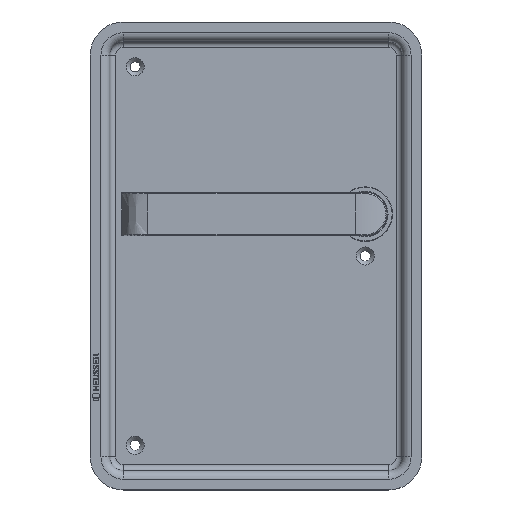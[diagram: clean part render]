
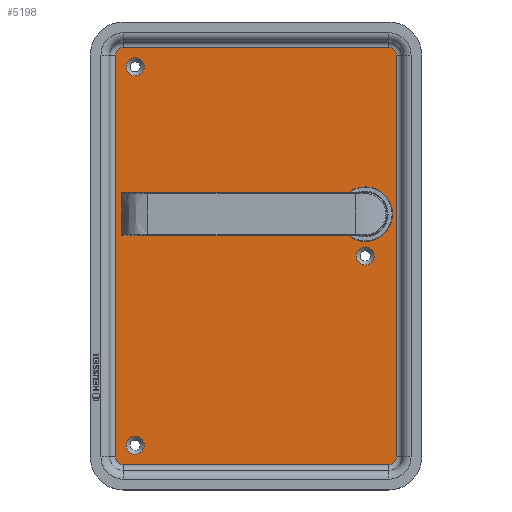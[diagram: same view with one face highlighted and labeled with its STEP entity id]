
A CAD part, top view. The second image highlights one B-rep face of the part: STEP entity #5198.
In plain terms, the highlighted planar face has unit normal (0, 0, 1).
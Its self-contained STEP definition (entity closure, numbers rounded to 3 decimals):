
#289=LINE('',#7328,#683);
#291=LINE('',#7346,#685);
#292=LINE('',#7349,#686);
#294=LINE('',#7366,#688);
#683=VECTOR('',#6058,10.);
#685=VECTOR('',#6080,10.);
#686=VECTOR('',#6083,10.);
#688=VECTOR('',#6105,10.);
#1150=FACE_BOUND('',#1618,.T.);
#1151=FACE_BOUND('',#1619,.T.);
#1152=FACE_BOUND('',#1620,.T.);
#1153=FACE_BOUND('',#1621,.T.);
#1287=FACE_OUTER_BOUND('',#1617,.T.);
#1617=EDGE_LOOP('',(#3617,#3618,#3619,#3620,#3621,#3622,#3623,#3624));
#1618=EDGE_LOOP('',(#3625));
#1619=EDGE_LOOP('',(#3626));
#1620=EDGE_LOOP('',(#3627));
#1621=EDGE_LOOP('',(#3628));
#1935=CIRCLE('',#5511,4.);
#1936=CIRCLE('',#5513,4.);
#1943=CIRCLE('',#5523,4.);
#1944=CIRCLE('',#5525,4.);
#1993=CIRCLE('',#5625,4.65);
#1994=CIRCLE('',#5627,4.65);
#1995=CIRCLE('',#5629,14.);
#1996=CIRCLE('',#5630,4.65);
#2113=VERTEX_POINT('',#7322);
#2115=VERTEX_POINT('',#7326);
#2117=VERTEX_POINT('',#7332);
#2118=VERTEX_POINT('',#7336);
#2121=VERTEX_POINT('',#7344);
#2122=VERTEX_POINT('',#7348);
#2125=VERTEX_POINT('',#7356);
#2126=VERTEX_POINT('',#7360);
#2187=VERTEX_POINT('',#7578);
#2188=VERTEX_POINT('',#7581);
#2189=VERTEX_POINT('',#7584);
#2190=VERTEX_POINT('',#7586);
#2612=EDGE_CURVE('',#2115,#2113,#289,.T.);
#2615=EDGE_CURVE('',#2117,#2115,#1935,.T.);
#2616=EDGE_CURVE('',#2113,#2118,#1936,.T.);
#2621=EDGE_CURVE('',#2121,#2117,#291,.T.);
#2622=EDGE_CURVE('',#2118,#2122,#292,.T.);
#2627=EDGE_CURVE('',#2125,#2121,#1943,.T.);
#2628=EDGE_CURVE('',#2122,#2126,#1944,.T.);
#2631=EDGE_CURVE('',#2126,#2125,#294,.T.);
#2732=EDGE_CURVE('',#2187,#2187,#1993,.T.);
#2733=EDGE_CURVE('',#2188,#2188,#1994,.T.);
#2734=EDGE_CURVE('',#2189,#2189,#1995,.T.);
#2735=EDGE_CURVE('',#2190,#2190,#1996,.T.);
#3617=ORIENTED_EDGE('',*,*,#2631,.F.);
#3618=ORIENTED_EDGE('',*,*,#2628,.F.);
#3619=ORIENTED_EDGE('',*,*,#2622,.F.);
#3620=ORIENTED_EDGE('',*,*,#2616,.F.);
#3621=ORIENTED_EDGE('',*,*,#2612,.F.);
#3622=ORIENTED_EDGE('',*,*,#2615,.F.);
#3623=ORIENTED_EDGE('',*,*,#2621,.F.);
#3624=ORIENTED_EDGE('',*,*,#2627,.F.);
#3625=ORIENTED_EDGE('',*,*,#2734,.T.);
#3626=ORIENTED_EDGE('',*,*,#2733,.F.);
#3627=ORIENTED_EDGE('',*,*,#2732,.F.);
#3628=ORIENTED_EDGE('',*,*,#2735,.F.);
#4700=PLANE('',#5628);
#5198=ADVANCED_FACE('',(#1287,#1150,#1151,#1152,#1153),#4700,.T.);
#5511=AXIS2_PLACEMENT_3D('',#7334,#6065,#6066);
#5513=AXIS2_PLACEMENT_3D('',#7337,#6069,#6070);
#5523=AXIS2_PLACEMENT_3D('',#7358,#6093,#6094);
#5525=AXIS2_PLACEMENT_3D('',#7361,#6097,#6098);
#5625=AXIS2_PLACEMENT_3D('',#7579,#6350,#6351);
#5627=AXIS2_PLACEMENT_3D('',#7582,#6354,#6355);
#5628=AXIS2_PLACEMENT_3D('',#7583,#6356,#6357);
#5629=AXIS2_PLACEMENT_3D('',#7585,#6358,#6359);
#5630=AXIS2_PLACEMENT_3D('',#7587,#6360,#6361);
#6058=DIRECTION('',(0.,-1.,0.));
#6065=DIRECTION('center_axis',(0.,0.,-1.));
#6066=DIRECTION('ref_axis',(0.707,0.707,0.));
#6069=DIRECTION('center_axis',(0.,0.,-1.));
#6070=DIRECTION('ref_axis',(0.707,-0.707,0.));
#6080=DIRECTION('',(1.,0.,0.));
#6083=DIRECTION('',(-1.,0.,0.));
#6093=DIRECTION('center_axis',(0.,0.,-1.));
#6094=DIRECTION('ref_axis',(-0.707,0.707,0.));
#6097=DIRECTION('center_axis',(0.,0.,-1.));
#6098=DIRECTION('ref_axis',(-0.707,-0.707,0.));
#6105=DIRECTION('',(0.,1.,0.));
#6350=DIRECTION('center_axis',(0.,0.,1.));
#6351=DIRECTION('ref_axis',(-1.,0.,0.));
#6354=DIRECTION('center_axis',(0.,0.,1.));
#6355=DIRECTION('ref_axis',(-1.,0.,0.));
#6356=DIRECTION('center_axis',(0.,0.,1.));
#6357=DIRECTION('ref_axis',(1.,0.,0.));
#6358=DIRECTION('center_axis',(0.,0.,-1.));
#6359=DIRECTION('ref_axis',(1.,0.,0.));
#6360=DIRECTION('center_axis',(0.,0.,1.));
#6361=DIRECTION('ref_axis',(-1.,0.,0.));
#7322=CARTESIAN_POINT('',(70.865,-93.546,-5.5));
#7326=CARTESIAN_POINT('',(70.865,112.454,-5.5));
#7328=CARTESIAN_POINT('',(70.865,60.954,-5.5));
#7332=CARTESIAN_POINT('',(66.865,116.454,-5.5));
#7334=CARTESIAN_POINT('Origin',(66.865,112.454,-5.5));
#7336=CARTESIAN_POINT('',(66.865,-97.546,-5.5));
#7337=CARTESIAN_POINT('Origin',(66.865,-93.546,-5.5));
#7344=CARTESIAN_POINT('',(-69.135,116.454,-5.5));
#7346=CARTESIAN_POINT('',(-35.135,116.454,-5.5));
#7348=CARTESIAN_POINT('',(-69.135,-97.546,-5.5));
#7349=CARTESIAN_POINT('',(32.865,-97.546,-5.5));
#7356=CARTESIAN_POINT('',(-73.135,112.454,-5.5));
#7358=CARTESIAN_POINT('Origin',(-69.135,112.454,-5.5));
#7360=CARTESIAN_POINT('',(-73.135,-93.546,-5.5));
#7361=CARTESIAN_POINT('Origin',(-69.135,-93.546,-5.5));
#7366=CARTESIAN_POINT('',(-73.135,-42.046,-5.5));
#7578=CARTESIAN_POINT('',(-58.485,106.454,-5.5));
#7579=CARTESIAN_POINT('Origin',(-63.135,106.454,-5.5));
#7581=CARTESIAN_POINT('',(59.515,9.454,-5.5));
#7582=CARTESIAN_POINT('Origin',(54.865,9.454,-5.5));
#7583=CARTESIAN_POINT('Origin',(-1.135,9.454,-5.5));
#7584=CARTESIAN_POINT('',(40.865,30.954,-5.5));
#7585=CARTESIAN_POINT('Origin',(54.865,30.954,-5.5));
#7586=CARTESIAN_POINT('',(-58.485,-87.546,-5.5));
#7587=CARTESIAN_POINT('Origin',(-63.135,-87.546,-5.5));
